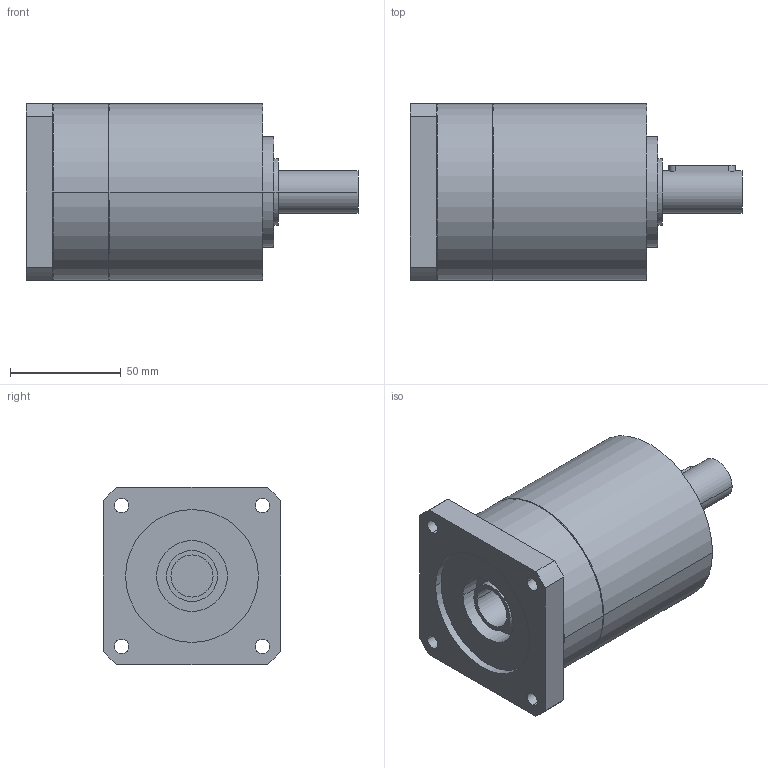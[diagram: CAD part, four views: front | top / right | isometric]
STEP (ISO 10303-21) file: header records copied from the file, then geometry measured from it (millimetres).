
FILE_DESCRIPTION(('CoCreate Modeling STEP Export'),'2;1');
FILE_NAME('GPR100_ig-3-4-5-6_19_B14_19_P19.stp','2014-08-26T10:08:49',(''),(''),'CoCreate Modeling STEP processor for AP214 (Solid Model)','CoCreate Modeling 16.00C 25-Feb-2009 (C) Parametric Technology GmbH','');
FILE_SCHEMA(('AUTOMOTIVE_DESIGN { 1 0 10303 214 1 1 1 1 }'));
Length unit declared in the file: millimetre
Products named in the file (2): GPR100_ig-3-4-5-6_19_B14_19_P19
Assembly tree (1 placements, depth 2):
  GPR100_ig-3-4-5-6_19_B14_19_P19
    GPR100_ig-3-4-5-6_19_B14_19_P19
Bounding box: 150 x 80 x 80 mm (x, y, z)
Volume: 545874.6 mm3; surface area: 50428.8 mm2
Topology: 1 solids, 1 shells, 82 faces, 222 edges, 158 vertices
Faces by surface type: cylinder 50, plane 26, cone 6
Entity records: 2249 total; most frequent: ORIENTED_EDGE 440, CARTESIAN_POINT 410, DIRECTION 302, EDGE_CURVE 220, VERTEX_POINT 158, AXIS2_PLACEMENT_3D 114, EDGE_LOOP 108, FACE_OUTER_BOUND 82
